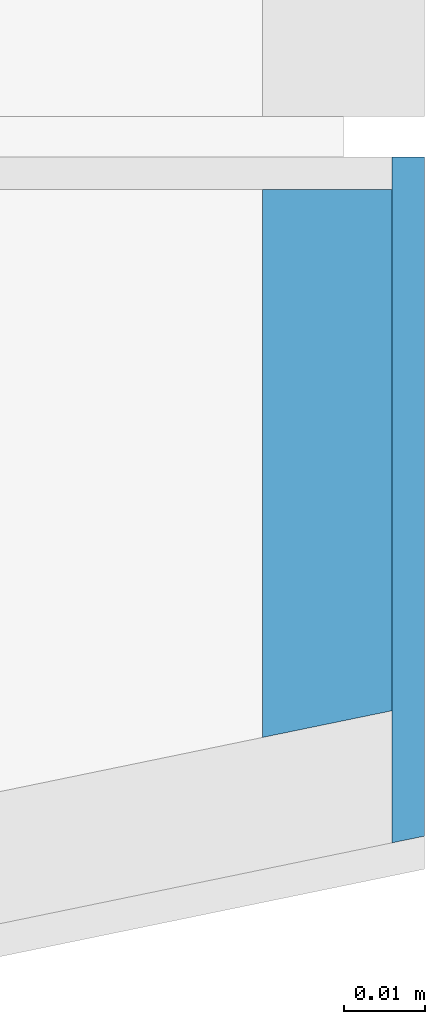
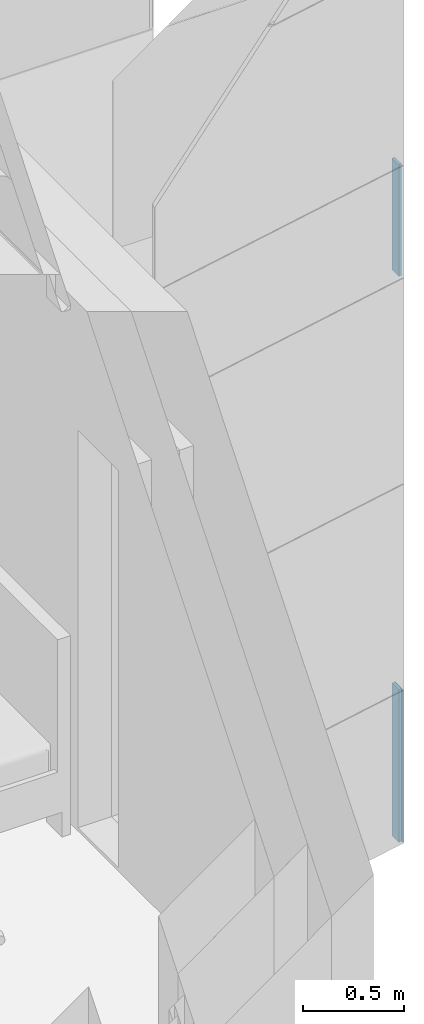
# One storey, part 29 of 125: 3 building element parts, 1 element without a shape of its own.
"""IFC2X3 building model written with IfcOpenShell, lengths in millimetres."""

from ifc_helpers import new_model, entity, si_unit, converted_unit, direction, frame, origin, place, context, subcontext, project, spatial, polyline, outline, extrude, material, type_object, element, aggregate, save


model = new_model("IFC2X3")

# Units and contexts
model_context = context("Model", 3, precision=0.01, world=origin(), true_north=direction((6.123233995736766e-17, 1.0)))
plan_context = context("Plan", 3, precision=0.01, world=origin(), true_north=direction((6.123233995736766e-17, 1.0)))
body_context = subcontext(model_context, "Body", "Model", "MODEL_VIEW")
ifc_project = project(units=[si_unit("LENGTHUNIT", "METRE", prefix="MILLI"), converted_unit("PLANEANGLEUNIT", "DEGREE", entity("IfcPlaneAngleMeasure", 0.017453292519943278), si_unit("PLANEANGLEUNIT", "RADIAN"), dimensions=[0, 0, 0, 0, 0, 0, 0]), si_unit("AREAUNIT", "SQUARE_METRE")], contexts=[model_context, plan_context])

# Site, building, storey
site_placement = place(None, origin())
site = spatial("IfcSite", under=ifc_project, at=site_placement, Name="Default", CompositionType="ELEMENT")
building_placement = place(site_placement, origin())
building = spatial("IfcBuilding", under=site, at=building_placement, CompositionType="ELEMENT")
storey_placement = place(building_placement, frame((0.0, 0.0, 3125.0)))
storey = spatial("IfcBuildingStorey", under=building, at=storey_placement, Name="2K", CompositionType="ELEMENT", Elevation=3125.0)

# Wall, building element parts
wall_type = type_object("IfcWallType", Name="Basic Wall:VS-komposiit", PredefinedType="STANDARD")
wall_placement = place(storey_placement, frame((18942.0, 2895.2108323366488, -1010.0), z_axis=(0.0, 0.0, 1.0), x_axis=(0.0, 1.0, 0.0)))
wall = element("IfcWall", 1, at=wall_placement, inside=storey, type_object=wall_type, Name="Basic Wall:VS-komposiit", ObjectType="Basic Wall:VS-komposiit")
ifc_material_1 = material(Name="_K. Välisviimistlus. Alumiinium-komposiitplaat")
building_element_part_1_placement = place(wall_placement, origin())
building_element_part_1 = element("IfcBuildingElementPart", 2, at=building_element_part_1_placement, material=ifc_material_1, Name="Part", context=body_context, shape_type="SweptSolid", body=[
    extrude(outline(polyline([(-42.20013519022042, -2.0), (42.61260185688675, -2.0), (41.787668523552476, 2.0), (-42.20013519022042, 2.0), (-42.20013519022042, -2.0)])), frame((29.57562070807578, -8.0, 0.0), z_axis=(0.0, 0.0, 1.0), x_axis=(-1.0, 0.0, 0.0)), (0.0, 0.0, 1.0), 922.4999999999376),
])
ifc_material_2 = material(Name="_K. Õhk. Roov. Fassaadikatte alusroov. Horisontaalne. 25 mm")
building_element_part_2_placement = place(wall_placement, origin())
building_element_part_2 = element("IfcBuildingElementPart", 3, at=building_element_part_2_placement, material=ifc_material_2, Name="Part", context=body_context, shape_type="SweptSolid", body=[
    extrude(outline(polyline([(-33.06294461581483, -8.0), (34.7128112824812, -8.0), (31.41307794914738, 8.0), (-33.06294461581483, 8.0), (-33.06294461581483, -8.0)])), frame((34.7128112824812, 2.0, 0.0), z_axis=(0.0, 0.0, 1.0), x_axis=(-1.0, 0.0, 0.0)), (0.0, 0.0, 1.0), 922.4999999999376),
])
building_element_part_3_placement = place(wall_placement, origin())
building_element_part_3 = element("IfcBuildingElementPart", 4, at=building_element_part_3_placement, material=ifc_material_2, Name="Part", context=body_context, shape_type="SweptSolid", body=[
    extrude(outline(polyline([(-33.06294461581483, -8.0), (34.7128112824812, -8.0), (31.413077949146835, 8.0), (-33.06294461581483, 8.0), (-33.06294461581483, -8.0)])), frame((34.7128112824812, 2.0, 3417.499999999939), z_axis=(0.0, 0.0, 1.0), x_axis=(-1.0, 0.0, 0.0)), (0.0, 0.0, 1.0), 674.999999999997),
])
aggregate(wall, [building_element_part_1, building_element_part_2, building_element_part_3])

save(model, "model.ifc")
